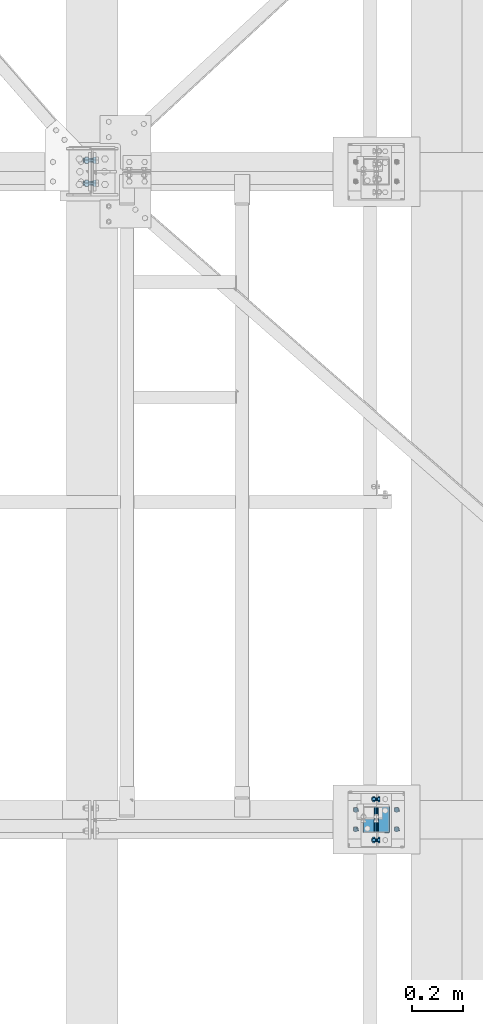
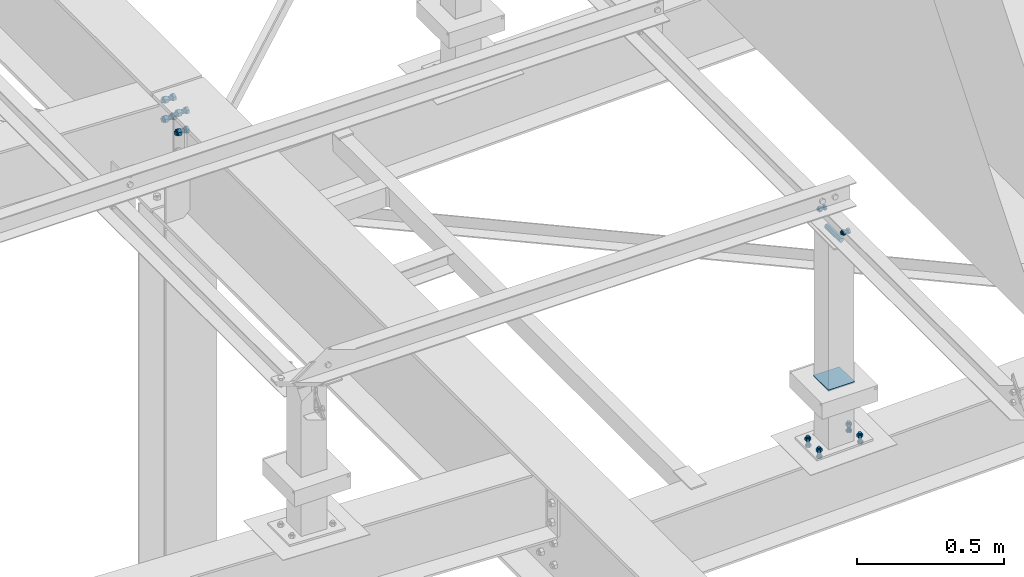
# One storey, part 87 of 3134: 6 mechanical fasteners, 5 elements without a shape of their own.
"""IFC2X3 building model written with IfcOpenShell, lengths in millimetres."""

import ifcopenshell
import ifcopenshell.guid

model = None  # the IFC model being written
_history = None  # IfcOwnerHistory: only IFC2X3 demands one
_inside = {}  # id of a spatial element -> (the spatial element, [elements in it])
_under = {}  # id of a project, library or spatial element -> (it, [spatial elements below it])
_declared = {}  # id of a project -> (the project, [libraries it declares])
_typed = {}  # id of a type object -> (the type object, [elements of that type])
_made_of = {}  # id of a material, layer set ... -> (it, [elements and type objects made of it])


def new_model(schema):
    """Start an empty IFC model of exactly this schema.

    Asked for "IFC4X3", IfcOpenShell would pick the latest addendum, in which some entities
    have other attributes; the version numbers below select the first issue.
    IFC2X3 requires an IfcOwnerHistory on every rooted entity: one is made here for all.
    """
    global model, _history
    if schema == "IFC4X3":
        model = ifcopenshell.file(schema_version=(4, 3, 0, 0))
    else:
        model = ifcopenshell.file(schema=schema)
    _inside.clear()
    _under.clear()
    _declared.clear()
    _typed.clear()
    _made_of.clear()
    _history = None
    if model.schema == "IFC2X3":
        org = make("IfcOrganization", Name="unknown")
        user = make(
            "IfcPersonAndOrganization",
            ThePerson=make("IfcPerson", FamilyName="unknown"),
            TheOrganization=org,
        )
        app = make(
            "IfcApplication",
            ApplicationDeveloper=org,
            Version="unknown",
            ApplicationFullName="unknown",
            ApplicationIdentifier="unknown",
        )
        _history = make(
            "IfcOwnerHistory",
            OwningUser=user,
            OwningApplication=app,
            ChangeAction="ADDED",
            CreationDate=0,
        )
    return model


def make(cls, **values):
    """One entity of the class cls with the attributes given. An attribute that is None is left unset."""
    return model.create_entity(
        cls, **{name: value for name, value in values.items() if value is not None}
    )


def rooted(cls, **values):
    """An entity with a GlobalId (a new one), such as an element, a storey or a relation."""
    return make(cls, GlobalId=ifcopenshell.guid.new(), OwnerHistory=_history, **values)


def si_unit(unit_type, name, prefix=None):
    """IfcSIUnit, for example si_unit("LENGTHUNIT", "METRE", prefix="MILLI")."""
    return make("IfcSIUnit", UnitType=unit_type, Prefix=prefix, Name=name)


def assignment(units):
    """IfcUnitAssignment: the units of a project."""
    return None if units is None else make("IfcUnitAssignment", Units=units)


def point(xyz):
    """IfcCartesianPoint."""
    return None if xyz is None else make("IfcCartesianPoint", Coordinates=xyz)


def direction(xyz):
    """IfcDirection."""
    return None if xyz is None else make("IfcDirection", DirectionRatios=xyz)


def frame(location, z_axis=None, x_axis=None):
    """IfcAxis2Placement3D, a coordinate frame: its origin and axes. An axis left out is left unset."""
    return make(
        "IfcAxis2Placement3D",
        Location=point(location),
        Axis=direction(z_axis),
        RefDirection=direction(x_axis),
    )


def origin_with_axes():
    """The frame at (0, 0, 0) with the z axis (0, 0, 1) and the x axis (1, 0, 0) written out."""
    return frame((0.0, 0.0, 0.0), z_axis=(0.0, 0.0, 1.0), x_axis=(1.0, 0.0, 0.0))


def place(relative_to, where):
    """IfcLocalPlacement: puts the frame where relative to a parent placement (None: the world)."""
    return make(
        "IfcLocalPlacement", PlacementRelTo=relative_to, RelativePlacement=where
    )


def context(
    kind, dimensions, precision=None, world=None, true_north=None, identifier=None
):
    """IfcGeometricRepresentationContext, for example the 3D "Model" context."""
    return make(
        "IfcGeometricRepresentationContext",
        ContextIdentifier=identifier,
        ContextType=kind,
        CoordinateSpaceDimension=dimensions,
        Precision=precision,
        WorldCoordinateSystem=world,
        TrueNorth=true_north,
    )


def subcontext(parent, identifier, kind, view, scale=None):
    """IfcGeometricRepresentationSubContext, for example "Body" below "Model"."""
    return make(
        "IfcGeometricRepresentationSubContext",
        ContextIdentifier=identifier,
        ContextType=kind,
        ParentContext=parent,
        TargetScale=scale,
        TargetView=view,
    )


def project(units=None, contexts=None):
    """IfcProject with its units and contexts."""
    return rooted(
        "IfcProject",
        Name="project",
        RepresentationContexts=contexts,
        UnitsInContext=assignment(units),
    )


def spatial(cls, under=None, at=None, **own):
    """A site, building, storey or space (cls), placed at a placement, below another one or the project."""
    s = rooted(cls, ObjectPlacement=at, **own)
    if under is not None:
        _under.setdefault(under.id(), (under, []))[1].append(s)
    return s


def faces_of(points, faces, orient=None, outer=None):
    """IfcFace entities. A face is a list of loops; a loop is a list of indices into points, from 0.

    orient and outer hold one flag for each loop. By default every Orientation is true, the
    first loop of a face is its IfcFaceOuterBound and the others are IfcFaceBound.
    """
    made = []
    for i, loops in enumerate(faces):
        bounds = []
        for j, loop in enumerate(loops):
            is_outer = j == 0 if outer is None else outer[i][j]
            bounds.append(
                make(
                    "IfcFaceOuterBound" if is_outer else "IfcFaceBound",
                    Bound=make("IfcPolyLoop", Polygon=[points[k] for k in loop]),
                    Orientation=True if orient is None else orient[i][j],
                )
            )
        made.append(make("IfcFace", Bounds=bounds))
    return made


def faceted_brep(points, faces, orient=None, outer=None, voids=None):
    """IfcFacetedBrep: a solid bounded by flat faces; with voids (closed shells), ...WithVoids."""
    shared = [point(p) for p in points]
    hull = make("IfcClosedShell", CfsFaces=faces_of(shared, faces, orient, outer))
    if voids is None:
        return make("IfcFacetedBrep", Outer=hull)
    return make(
        "IfcFacetedBrepWithVoids",
        Outer=hull,
        Voids=[
            make(cls, CfsFaces=faces_of(shared, fs, o, b)) for cls, fs, o, b in voids
        ],
    )


def shape(context_of_items, identifier, shape_type, items):
    """IfcShapeRepresentation: the items that make up one representation, for example the "Body"."""
    return make(
        "IfcShapeRepresentation",
        ContextOfItems=context_of_items,
        RepresentationIdentifier=identifier,
        RepresentationType=shape_type,
        Items=items,
    )


def source(mapping_origin, context_of_items, identifier, shape_type, items):
    """IfcRepresentationMap: a shape defined once, which mapped items show again and again."""
    return make(
        "IfcRepresentationMap",
        MappingOrigin=mapping_origin,
        MappedRepresentation=shape(context_of_items, identifier, shape_type, items),
    )


def transform(
    local_origin,
    x_axis=None,
    y_axis=None,
    z_axis=None,
    scale=None,
    scale2=None,
    scale3=None,
    uniform=True,
):
    """IfcCartesianTransformationOperator3D, or its non-uniform kind. x_axis, y_axis, z_axis: its Axis1, 2, 3."""
    if uniform:
        return make(
            "IfcCartesianTransformationOperator3D",
            Axis1=direction(x_axis),
            Axis2=direction(y_axis),
            LocalOrigin=point(local_origin),
            Scale=scale,
            Axis3=direction(z_axis),
        )
    return make(
        "IfcCartesianTransformationOperator3DnonUniform",
        Axis1=direction(x_axis),
        Axis2=direction(y_axis),
        LocalOrigin=point(local_origin),
        Scale=scale,
        Axis3=direction(z_axis),
        Scale2=scale2,
        Scale3=scale3,
    )


def mapped(mapping_source, mapping_target):
    """IfcMappedItem: shows the shape of a source again, moved by a transform."""
    return make(
        "IfcMappedItem", MappingSource=mapping_source, MappingTarget=mapping_target
    )


def material(Name=None, Category=None):
    """IfcMaterial."""
    return make("IfcMaterial", Name=Name, Category=Category)


def made_of(thing, what):
    """Note that an element or type object is made of a material, layer set ...; save() writes the relation."""
    if what is not None:
        _made_of.setdefault(what.id(), (what, []))[1].append(thing)
    return thing


def type_object(cls, material=None, **own):
    """A type object (cls), such as IfcWallType, which elements share."""
    return made_of(rooted(cls, **own), material)


def element(
    cls,
    number,
    at=None,
    inside=None,
    cuts=None,
    type_object=None,
    material=None,
    context=None,
    identifier="Body",
    shape_type=None,
    held_by="IfcProductDefinitionShape",
    body=None,
    shapes=None,
    **own,
):
    """One element of the class cls, such as IfcWall. Its Tag is "e" and its number.

    at: its placement. inside: the storey or other place that contains it. cuts: it is an
    opening in that element (IfcRelVoidsElement). A single representation is given by context,
    identifier, shape_type and body (its items); several are given by shapes. held_by: the class
    of the entity that holds the representations. save() writes the other relations.
    """
    e = rooted(cls, Tag="e%d" % number, ObjectPlacement=at, **own)
    if body is not None:
        shapes = [shape(context, identifier, shape_type, body)]
    if shapes is not None:
        e.Representation = make(held_by, Representations=shapes)
    if inside is not None:
        _inside.setdefault(inside.id(), (inside, []))[1].append(e)
    if cuts is not None:
        rooted(
            "IfcRelVoidsElement", RelatingBuildingElement=cuts, RelatedOpeningElement=e
        )
    if type_object is not None:
        _typed.setdefault(type_object.id(), (type_object, []))[1].append(e)
    return made_of(e, material)


def aggregate(whole, parts):
    """IfcRelAggregates: a whole, such as a stair, and the parts it consists of."""
    return rooted("IfcRelAggregates", RelatingObject=whole, RelatedObjects=parts)


def save(model, path):
    """Write the relations noted so far, then the file.

    IfcRelAggregates (storeys below a building ...), IfcRelContainedInSpatialStructure (elements
    in a storey), IfcRelDefinesByType, IfcRelAssociatesMaterial and IfcRelDeclares: one each for
    every whole, place, type object, material and project.
    """
    for whole, parts in _under.values():
        aggregate(whole, parts)
    for where, things in _inside.values():
        rooted(
            "IfcRelContainedInSpatialStructure",
            RelatedElements=things,
            RelatingStructure=where,
        )
    for kind, things in _typed.values():
        rooted("IfcRelDefinesByType", RelatedObjects=things, RelatingType=kind)
    for what, things in _made_of.values():
        rooted("IfcRelAssociatesMaterial", RelatedObjects=things, RelatingMaterial=what)
    for by, libraries in _declared.values():
        rooted("IfcRelDeclares", RelatingContext=by, RelatedDefinitions=libraries)
    model.write(path)


model = new_model("IFC2X3")

# Units and contexts
model_context = context("Model", 3, precision=1e-05, world=origin_with_axes())
body_context = subcontext(model_context, "Body", "Model", "MODEL_VIEW")
ifc_project = project(units=[si_unit("LENGTHUNIT", "METRE", prefix="MILLI"), si_unit("AREAUNIT", "SQUARE_METRE"), si_unit("VOLUMEUNIT", "CUBIC_METRE"), si_unit("MASSUNIT", "GRAM", prefix="KILO"), si_unit("TIMEUNIT", "SECOND"), si_unit("PLANEANGLEUNIT", "RADIAN"), si_unit("SOLIDANGLEUNIT", "STERADIAN"), si_unit("THERMODYNAMICTEMPERATUREUNIT", "DEGREE_CELSIUS"), si_unit("LUMINOUSINTENSITYUNIT", "LUMEN")], contexts=[model_context])

# Site, building, storey
site_placement = place(None, origin_with_axes())
site = spatial("IfcSite", under=ifc_project, at=site_placement, CompositionType="ELEMENT")
building_placement = place(site_placement, origin_with_axes())
building = spatial("IfcBuilding", under=site, at=building_placement, Name="Undefined", CompositionType="ELEMENT")
storey_placement = place(building_placement, origin_with_axes())
storey = spatial("IfcBuildingStorey", under=building, at=storey_placement, Name="Undefined", CompositionType="ELEMENT", Elevation=0.0)

# Assembly, mechanical fastener
assembly_1_placement = place(storey_placement, origin_with_axes())
assembly_1 = element("IfcElementAssembly", 1, at=assembly_1_placement, inside=storey, AssemblyPlace="NOTDEFINED", PredefinedType="RIGID_FRAME")
ifc_material_1 = material(Name="8.8")
mechanical_fastener_type = type_object("IfcMechanicalFastenerType", Name="Bolt assembly")
shared_shape_1 = source(origin_with_axes(), body_context, "Body", "Brep", [
    faceted_brep([(10.9696551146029, -14.0, 0.0), (5.48482755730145, -14.0, 9.5), (-5.48482755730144, -14.0, 9.5), (-10.9696551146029, -14.0, 1.34339530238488e-15), (-5.48482755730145, -14.0, -9.5), (5.48482755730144, -14.0, -9.50000000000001), (5.48482755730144, -6.0, -9.50000000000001), (-5.48482755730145, -6.0, -9.5), (-10.9696551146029, -6.0, 1.34339530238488e-15), (-5.48482755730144, -6.0, 9.5), (5.48482755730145, -6.0, 9.5), (10.9696551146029, -6.0, 0.0), (6.0, -6.0, 0.0), (5.19615242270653, -6.0, 3.00000000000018), (2.99999999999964, -6.0, 5.19615242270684), (-6.21801588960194e-13, -6.0, 6.0), (-3.00000000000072, -6.0, 5.19615242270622), (-5.19615242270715, -6.0, 2.9999999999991), (-6.0, -6.0, -1.24360317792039e-12), (-5.19615242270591, -6.0, -3.00000000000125), (-2.99999999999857, -6.0, -5.19615242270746), (1.85874342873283e-12, -6.0, -6.0), (3.00000000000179, -6.0, -5.1961524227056), (5.19615242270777, -6.0, -2.99999999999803), (5.19615242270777, 19.0, -2.99999999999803), (3.00000000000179, 19.0, -5.1961524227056), (1.85874342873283e-12, 19.0, -6.0), (-2.99999999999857, 19.0, -5.19615242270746), (-5.19615242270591, 19.0, -3.00000000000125), (-6.0, 19.0, -1.24360317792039e-12), (-5.19615242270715, 19.0, 2.9999999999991), (-3.00000000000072, 19.0, 5.19615242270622), (-6.21801588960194e-13, 19.0, 6.0), (2.99999999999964, 19.0, 5.19615242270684), (5.19615242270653, 19.0, 3.00000000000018), (6.0, 19.0, 0.0), (10.9696551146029, 4.00000000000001, 0.0), (5.48482755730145, 4.00000000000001, 9.5), (-5.48482755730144, 4.00000000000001, 9.5), (-10.9696551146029, 4.00000000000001, 1.34339530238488e-15), (-5.48482755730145, 4.00000000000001, -9.5), (5.48482755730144, 4.00000000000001, -9.50000000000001), (5.48482755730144, 14.0, -9.50000000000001), (-5.48482755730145, 14.0, -9.5), (-10.9696551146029, 14.0, 1.34339530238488e-15), (-5.48482755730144, 14.0, 9.5), (5.48482755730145, 14.0, 9.5), (10.9696551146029, 14.0, 0.0)], [[[0, 1, 2, 3, 4, 5]], [[6, 7, 8, 9, 10, 11]], [[0, 11, 10, 1]], [[1, 10, 9, 2]], [[2, 9, 8, 3]], [[3, 8, 7, 4]], [[4, 7, 6, 5]], [[5, 6, 11, 0]], [[12, 13, 14, 15, 16, 17, 18, 19, 20, 21, 22, 23]], [[24, 25, 26, 27, 28, 29, 30, 31, 32, 33, 34, 35]], [[12, 35, 34, 13]], [[13, 34, 33, 14]], [[14, 33, 32, 15]], [[15, 32, 31, 16]], [[16, 31, 30, 17]], [[17, 30, 29, 18]], [[18, 29, 28, 19]], [[19, 28, 27, 20]], [[20, 27, 26, 21]], [[21, 26, 25, 22]], [[22, 25, 24, 23]], [[23, 24, 35, 12]], [[36, 37, 38, 39, 40, 41]], [[42, 43, 44, 45, 46, 47]], [[36, 47, 46, 37]], [[37, 46, 45, 38]], [[38, 45, 44, 39]], [[39, 44, 43, 40]], [[40, 43, 42, 41]], [[41, 42, 47, 36]]]),
    faceted_brep([(7.0, -0.1, 0.0), (6.06217782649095, -0.1, 3.50000000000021), (3.49999999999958, -0.1, 6.06217782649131), (-7.25435187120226e-13, -0.1, 7.0), (-3.50000000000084, -0.1, 6.06217782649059), (-6.06217782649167, -0.1, 3.49999999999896), (-7.0, -0.1, -1.45087037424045e-12), (-6.06217782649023, -0.1, -3.50000000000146), (-3.49999999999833, -0.1, -6.06217782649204), (2.1685340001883e-12, -0.1, -7.0), (3.50000000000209, -0.1, -6.06217782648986), (6.0621778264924, -0.1, -3.4999999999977), (6.0621778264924, 4.00000000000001, -3.4999999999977), (3.50000000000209, 4.00000000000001, -6.06217782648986), (2.1685340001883e-12, 4.00000000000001, -7.0), (-3.49999999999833, 4.00000000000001, -6.06217782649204), (-6.06217782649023, 4.00000000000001, -3.50000000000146), (-7.0, 4.00000000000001, -1.45087037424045e-12), (-6.06217782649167, 4.00000000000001, 3.49999999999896), (-3.50000000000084, 4.00000000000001, 6.06217782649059), (-7.25435187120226e-13, 4.00000000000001, 7.0), (3.49999999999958, 4.00000000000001, 6.06217782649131), (6.06217782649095, 4.00000000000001, 3.50000000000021), (7.0, 4.00000000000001, 0.0), (7.0, -5.9, 0.0), (6.06217782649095, -5.9, 3.50000000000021), (3.49999999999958, -5.9, 6.06217782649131), (-7.25435187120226e-13, -5.9, 7.0), (-3.50000000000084, -5.9, 6.06217782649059), (-6.06217782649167, -5.9, 3.49999999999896), (-7.0, -5.9, -1.45087037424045e-12), (-6.06217782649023, -5.9, -3.50000000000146), (-3.49999999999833, -5.9, -6.06217782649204), (2.1685340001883e-12, -5.9, -7.0), (3.50000000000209, -5.9, -6.06217782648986), (6.0621778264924, -5.9, -3.4999999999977), (6.0621778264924, 0.0999999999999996, -3.4999999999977), (3.50000000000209, 0.0999999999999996, -6.06217782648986), (2.1685340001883e-12, 0.0999999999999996, -7.0), (-3.49999999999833, 0.0999999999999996, -6.06217782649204), (-6.06217782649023, 0.0999999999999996, -3.50000000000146), (-7.0, 0.0999999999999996, -1.45087037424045e-12), (-6.06217782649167, 0.0999999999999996, 3.49999999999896), (-3.50000000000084, 0.0999999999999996, 6.06217782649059), (-7.25435187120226e-13, 0.0999999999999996, 7.0), (3.49999999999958, 0.0999999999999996, 6.06217782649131), (6.06217782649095, 0.0999999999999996, 3.50000000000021), (7.0, 0.0999999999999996, 0.0)], [[[0, 1, 2, 3, 4, 5, 6, 7, 8, 9, 10, 11]], [[12, 13, 14, 15, 16, 17, 18, 19, 20, 21, 22, 23]], [[0, 23, 22, 1]], [[1, 22, 21, 2]], [[2, 21, 20, 3]], [[3, 20, 19, 4]], [[4, 19, 18, 5]], [[5, 18, 17, 6]], [[6, 17, 16, 7]], [[7, 16, 15, 8]], [[8, 15, 14, 9]], [[9, 14, 13, 10]], [[10, 13, 12, 11]], [[11, 12, 23, 0]], [[24, 25, 26, 27, 28, 29, 30, 31, 32, 33, 34, 35]], [[36, 37, 38, 39, 40, 41, 42, 43, 44, 45, 46, 47]], [[24, 47, 46, 25]], [[25, 46, 45, 26]], [[26, 45, 44, 27]], [[27, 44, 43, 28]], [[28, 43, 42, 29]], [[29, 42, 41, 30]], [[30, 41, 40, 31]], [[31, 40, 39, 32]], [[32, 39, 38, 33]], [[33, 38, 37, 34]], [[34, 37, 36, 35]], [[35, 36, 47, 24]]]),
])
mechanical_fastener_1_placement = place(assembly_1_placement, frame((10405.0, 26963.75, 4300.0), z_axis=(0.0, 0.0, 1.0), x_axis=(0.0, 1.0, 0.0)))
mechanical_fastener_1 = element("IfcMechanicalFastener", 2, at=mechanical_fastener_1_placement, type_object=mechanical_fastener_type, material=ifc_material_1, Name="Bolt assembly", NominalDiameter=12.0, NominalLength=25.0, context=body_context, shape_type="MappedRepresentation", body=[
    mapped(shared_shape_1, transform((0.0, 0.0, 0.0))),
    mapped(shared_shape_1, transform((160.0, 0.0, 0.0))),
])
aggregate(assembly_1, [mechanical_fastener_1])

assembly_2_placement = place(storey_placement, origin_with_axes())
assembly_2 = element("IfcElementAssembly", 3, at=assembly_2_placement, inside=storey, Name="IPE500", AssemblyPlace="NOTDEFINED", PredefinedType="RIGID_FRAME")
shared_shape_2 = source(origin_with_axes(), body_context, "Body", "Brep", [
    faceted_brep([(13.856406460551, 0.0, 0.0), (6.92820323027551, 0.0, 12.0), (-6.92820323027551, 0.0, 12.0), (-13.856406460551, 0.0, 1.69692038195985e-15), (-6.92820323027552, 0.0, -12.0), (6.9282032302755, 0.0, -12.0), (6.9282032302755, 9.99999995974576, -12.0), (-6.92820323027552, 9.99999995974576, -12.0), (-13.856406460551, 9.99999995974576, 1.69692038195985e-15), (-6.92820323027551, 9.99999995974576, 12.0), (6.92820323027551, 9.99999995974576, 12.0), (13.856406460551, 9.99999995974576, 0.0), (8.0, 9.99999995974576, 0.0), (6.92820323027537, 9.99999995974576, 4.00000000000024), (3.99999999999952, 9.99999995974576, 6.92820323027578), (-8.29068785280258e-13, 9.99999995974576, 8.0), (-4.00000000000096, 9.99999995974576, 6.92820323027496), (-6.9282032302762, 9.99999995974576, 3.99999999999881), (-8.0, 9.99999995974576, -1.65813757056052e-12), (-6.92820323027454, 9.99999995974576, -4.00000000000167), (-3.99999999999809, 9.99999995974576, -6.92820323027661), (2.47832457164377e-12, 9.99999995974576, -8.0), (4.00000000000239, 9.99999995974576, -6.92820323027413), (6.92820323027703, 9.99999995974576, -3.99999999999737), (6.92820323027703, 49.9999999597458, -3.99999999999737), (4.00000000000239, 49.9999999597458, -6.92820323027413), (2.47832457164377e-12, 49.9999999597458, -8.0), (-3.99999999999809, 49.9999999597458, -6.92820323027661), (-6.92820323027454, 49.9999999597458, -4.00000000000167), (-8.0, 49.9999999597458, -1.65813757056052e-12), (-6.9282032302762, 49.9999999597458, 3.99999999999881), (-4.00000000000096, 49.9999999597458, 6.92820323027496), (-8.29068785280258e-13, 49.9999999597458, 8.0), (3.99999999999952, 49.9999999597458, 6.92820323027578), (6.92820323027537, 49.9999999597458, 4.00000000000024), (8.0, 49.9999999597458, 0.0), (13.856406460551, 30.1999997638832, 0.0), (6.92820323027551, 30.1999997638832, 12.0), (-6.92820323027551, 30.1999997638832, 12.0), (-13.856406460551, 30.1999997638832, 1.69692038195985e-15), (-6.92820323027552, 30.1999997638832, -12.0), (6.9282032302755, 30.1999997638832, -12.0), (6.9282032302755, 43.1999997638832, -12.0), (-6.92820323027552, 43.1999997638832, -12.0), (-13.856406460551, 43.1999997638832, 1.69692038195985e-15), (-6.92820323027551, 43.1999997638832, 12.0), (6.92820323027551, 43.1999997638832, 12.0), (13.856406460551, 43.1999997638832, 0.0)], [[[0, 1, 2, 3, 4, 5]], [[6, 7, 8, 9, 10, 11]], [[0, 11, 10, 1]], [[1, 10, 9, 2]], [[2, 9, 8, 3]], [[3, 8, 7, 4]], [[4, 7, 6, 5]], [[5, 6, 11, 0]], [[12, 13, 14, 15, 16, 17, 18, 19, 20, 21, 22, 23]], [[24, 25, 26, 27, 28, 29, 30, 31, 32, 33, 34, 35]], [[12, 35, 34, 13]], [[13, 34, 33, 14]], [[14, 33, 32, 15]], [[15, 32, 31, 16]], [[16, 31, 30, 17]], [[17, 30, 29, 18]], [[18, 29, 28, 19]], [[19, 28, 27, 20]], [[20, 27, 26, 21]], [[21, 26, 25, 22]], [[22, 25, 24, 23]], [[23, 24, 35, 12]], [[36, 37, 38, 39, 40, 41]], [[42, 43, 44, 45, 46, 47]], [[36, 47, 46, 37]], [[37, 46, 45, 38]], [[38, 45, 44, 39]], [[39, 44, 43, 40]], [[40, 43, 42, 41]], [[41, 42, 47, 36]]]),
    faceted_brep([(9.0, 20.0999997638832, 0.0), (7.79422863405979, 20.0999997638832, 4.50000000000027), (4.49999999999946, 20.0999997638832, 7.79422863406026), (-9.3270238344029e-13, 20.0999997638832, 9.0), (-4.50000000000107, 20.0999997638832, 7.79422863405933), (-7.79422863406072, 20.0999997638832, 4.49999999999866), (-9.0, 20.0999997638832, -1.86540476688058e-12), (-7.79422863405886, 20.0999997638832, -4.50000000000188), (-4.49999999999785, 20.0999997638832, -7.79422863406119), (2.78811514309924e-12, 20.0999997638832, -9.0), (4.50000000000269, 20.0999997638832, -7.7942286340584), (7.79422863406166, 20.0999997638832, -4.49999999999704), (7.79422863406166, 30.1999997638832, -4.49999999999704), (4.50000000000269, 30.1999997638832, -7.7942286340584), (2.78811514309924e-12, 30.1999997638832, -9.0), (-4.49999999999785, 30.1999997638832, -7.79422863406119), (-7.79422863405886, 30.1999997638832, -4.50000000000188), (-9.0, 30.1999997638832, -1.86540476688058e-12), (-7.79422863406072, 30.1999997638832, 4.49999999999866), (-4.50000000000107, 30.1999997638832, 7.79422863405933), (-9.3270238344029e-13, 30.1999997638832, 9.0), (4.49999999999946, 30.1999997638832, 7.79422863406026), (7.79422863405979, 30.1999997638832, 4.50000000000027), (9.0, 30.1999997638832, 0.0), (9.0, 10.1000023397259, 0.0), (7.79422863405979, 10.1000023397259, 4.50000000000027), (4.49999999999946, 10.1000023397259, 7.79422863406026), (-9.3270238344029e-13, 10.1000023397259, 9.0), (-4.50000000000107, 10.1000023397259, 7.79422863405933), (-7.79422863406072, 10.1000023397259, 4.49999999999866), (-9.0, 10.1000023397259, -1.86540476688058e-12), (-7.79422863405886, 10.1000023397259, -4.50000000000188), (-4.49999999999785, 10.1000023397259, -7.79422863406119), (2.78811514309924e-12, 10.1000023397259, -9.0), (4.50000000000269, 10.1000023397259, -7.7942286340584), (7.79422863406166, 10.1000023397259, -4.49999999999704), (7.79422863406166, 20.2999997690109, -4.49999999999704), (4.50000000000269, 20.2999997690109, -7.7942286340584), (2.78811514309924e-12, 20.2999997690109, -9.0), (-4.49999999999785, 20.2999997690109, -7.79422863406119), (-7.79422863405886, 20.2999997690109, -4.50000000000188), (-9.0, 20.2999997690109, -1.86540476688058e-12), (-7.79422863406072, 20.2999997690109, 4.49999999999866), (-4.50000000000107, 20.2999997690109, 7.79422863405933), (-9.3270238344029e-13, 20.2999997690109, 9.0), (4.49999999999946, 20.2999997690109, 7.79422863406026), (7.79422863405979, 20.2999997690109, 4.50000000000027), (9.0, 20.2999997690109, 0.0)], [[[0, 1, 2, 3, 4, 5, 6, 7, 8, 9, 10, 11]], [[12, 13, 14, 15, 16, 17, 18, 19, 20, 21, 22, 23]], [[0, 23, 22, 1]], [[1, 22, 21, 2]], [[2, 21, 20, 3]], [[3, 20, 19, 4]], [[4, 19, 18, 5]], [[5, 18, 17, 6]], [[6, 17, 16, 7]], [[7, 16, 15, 8]], [[8, 15, 14, 9]], [[9, 14, 13, 10]], [[10, 13, 12, 11]], [[11, 12, 23, 0]], [[24, 25, 26, 27, 28, 29, 30, 31, 32, 33, 34, 35]], [[36, 37, 38, 39, 40, 41, 42, 43, 44, 45, 46, 47]], [[24, 47, 46, 25]], [[25, 46, 45, 26]], [[26, 45, 44, 27]], [[27, 44, 43, 28]], [[28, 43, 42, 29]], [[29, 42, 41, 30]], [[30, 41, 40, 31]], [[31, 40, 39, 32]], [[32, 39, 38, 33]], [[33, 38, 37, 34]], [[34, 37, 36, 35]], [[35, 36, 47, 24]]]),
])
mechanical_fastener_2_placement = place(assembly_2_placement, frame((9310.09999986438, 29530.0, 3631.67000001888), z_axis=(0.0, 1.0, 0.0), x_axis=(0.0, 0.0, -1.0)))
mechanical_fastener_2 = element("IfcMechanicalFastener", 4, at=mechanical_fastener_2_placement, type_object=mechanical_fastener_type, material=ifc_material_1, Name="Bolt assembly", NominalDiameter=16.0, NominalLength=40.0, context=body_context, shape_type="MappedRepresentation", body=[
    mapped(shared_shape_2, transform((0.0, 0.0, 0.0))),
    mapped(shared_shape_2, transform((80.0, 0.0, 0.0))),
])
aggregate(assembly_2, [mechanical_fastener_2])

assembly_3_placement = place(storey_placement, origin_with_axes())
assembly_3 = element("IfcElementAssembly", 5, at=assembly_3_placement, inside=storey, Name="IPE500", AssemblyPlace="NOTDEFINED", PredefinedType="RIGID_FRAME")
mechanical_fastener_3_placement = place(assembly_3_placement, frame((9310.09999986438, 29620.0, 3631.67000001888), z_axis=(0.0, 1.0, 0.0), x_axis=(0.0, 0.0, -1.0)))
mechanical_fastener_3 = element("IfcMechanicalFastener", 6, at=mechanical_fastener_3_placement, type_object=mechanical_fastener_type, material=ifc_material_1, Name="Bolt assembly", NominalDiameter=16.0, NominalLength=40.0, context=body_context, shape_type="MappedRepresentation", body=[
    mapped(shared_shape_2, transform((0.0, 0.0, 0.0))),
    mapped(shared_shape_2, transform((80.0, 0.0, 0.0))),
])
aggregate(assembly_3, [mechanical_fastener_3])

assembly_4_placement = place(storey_placement, origin_with_axes())
assembly_4 = element("IfcElementAssembly", 7, at=assembly_4_placement, inside=storey, Name="300", AssemblyPlace="NOTDEFINED", PredefinedType="RIGID_FRAME")
shared_shape_3 = source(origin_with_axes(), body_context, "Body", "Brep", [
    faceted_brep([(10.9696551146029, -4.1984682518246, 0.0), (5.48482755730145, -4.1984682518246, 9.5), (-5.48482755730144, -4.1984682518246, 9.5), (-10.9696551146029, -4.1984682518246, 1.34339530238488e-15), (-5.48482755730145, -4.1984682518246, -9.5), (5.48482755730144, -4.1984682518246, -9.50000000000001), (5.48482755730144, 3.8015317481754, -9.50000000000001), (-5.48482755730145, 3.8015317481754, -9.5), (-10.9696551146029, 3.8015317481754, 1.34339530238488e-15), (-5.48482755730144, 3.8015317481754, 9.5), (5.48482755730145, 3.8015317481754, 9.5), (10.9696551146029, 3.8015317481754, 0.0), (6.0, 3.8015317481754, 0.0), (5.19615242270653, 3.8015317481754, 3.00000000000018), (2.99999999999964, 3.8015317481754, 5.19615242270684), (-6.21801588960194e-13, 3.8015317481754, 6.0), (-3.00000000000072, 3.8015317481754, 5.19615242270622), (-5.19615242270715, 3.8015317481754, 2.9999999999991), (-6.0, 3.8015317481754, -1.24360317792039e-12), (-5.19615242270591, 3.8015317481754, -3.00000000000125), (-2.99999999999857, 3.8015317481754, -5.19615242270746), (1.85874342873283e-12, 3.8015317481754, -6.0), (3.00000000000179, 3.8015317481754, -5.1961524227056), (5.19615242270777, 3.8015317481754, -2.99999999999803), (5.19615242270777, 38.8015317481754, -2.99999999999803), (3.00000000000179, 38.8015317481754, -5.1961524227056), (1.85874342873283e-12, 38.8015317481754, -6.0), (-2.99999999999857, 38.8015317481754, -5.19615242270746), (-5.19615242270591, 38.8015317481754, -3.00000000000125), (-6.0, 38.8015317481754, -1.24360317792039e-12), (-5.19615242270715, 38.8015317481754, 2.9999999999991), (-3.00000000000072, 38.8015317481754, 5.19615242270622), (-6.21801588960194e-13, 38.8015317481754, 6.0), (2.99999999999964, 38.8015317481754, 5.19615242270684), (5.19615242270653, 38.8015317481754, 3.00000000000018), (6.0, 38.8015317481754, 0.0), (10.9696551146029, 23.0039050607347, 0.0), (5.48482755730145, 23.0039050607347, 9.5), (-5.48482755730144, 23.0039050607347, 9.5), (-10.9696551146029, 23.0039050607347, 1.34339530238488e-15), (-5.48482755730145, 23.0039050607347, -9.5), (5.48482755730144, 23.0039050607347, -9.50000000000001), (5.48482755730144, 33.0039050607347, -9.50000000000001), (-5.48482755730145, 33.0039050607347, -9.5), (-10.9696551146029, 33.0039050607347, 1.34339530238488e-15), (-5.48482755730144, 33.0039050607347, 9.5), (5.48482755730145, 33.0039050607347, 9.5), (10.9696551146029, 33.0039050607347, 0.0)], [[[0, 1, 2, 3, 4, 5]], [[6, 7, 8, 9, 10, 11]], [[0, 11, 10, 1]], [[1, 10, 9, 2]], [[2, 9, 8, 3]], [[3, 8, 7, 4]], [[4, 7, 6, 5]], [[5, 6, 11, 0]], [[12, 13, 14, 15, 16, 17, 18, 19, 20, 21, 22, 23]], [[24, 25, 26, 27, 28, 29, 30, 31, 32, 33, 34, 35]], [[12, 35, 34, 13]], [[13, 34, 33, 14]], [[14, 33, 32, 15]], [[15, 32, 31, 16]], [[16, 31, 30, 17]], [[17, 30, 29, 18]], [[18, 29, 28, 19]], [[19, 28, 27, 20]], [[20, 27, 26, 21]], [[21, 26, 25, 22]], [[22, 25, 24, 23]], [[23, 24, 35, 12]], [[36, 37, 38, 39, 40, 41]], [[42, 43, 44, 45, 46, 47]], [[36, 47, 46, 37]], [[37, 46, 45, 38]], [[38, 45, 44, 39]], [[39, 44, 43, 40]], [[40, 43, 42, 41]], [[41, 42, 47, 36]]]),
    faceted_brep([(7.0, 14.9039050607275, 0.0), (6.06217782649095, 14.9039050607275, 3.50000000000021), (3.49999999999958, 14.9039050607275, 6.06217782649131), (-7.25435187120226e-13, 14.9039050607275, 7.0), (-3.50000000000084, 14.9039050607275, 6.06217782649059), (-6.06217782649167, 14.9039050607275, 3.49999999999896), (-7.0, 14.9039050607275, -1.45087037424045e-12), (-6.06217782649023, 14.9039050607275, -3.50000000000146), (-3.49999999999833, 14.9039050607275, -6.06217782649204), (2.1685340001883e-12, 14.9039050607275, -7.0), (3.50000000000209, 14.9039050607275, -6.06217782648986), (6.0621778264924, 14.9039050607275, -3.4999999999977), (6.0621778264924, 23.0039050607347, -3.4999999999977), (3.50000000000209, 23.0039050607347, -6.06217782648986), (2.1685340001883e-12, 23.0039050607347, -7.0), (-3.49999999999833, 23.0039050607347, -6.06217782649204), (-6.06217782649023, 23.0039050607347, -3.50000000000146), (-7.0, 23.0039050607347, -1.45087037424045e-12), (-6.06217782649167, 23.0039050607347, 3.49999999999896), (-3.50000000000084, 23.0039050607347, 6.06217782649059), (-7.25435187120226e-13, 23.0039050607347, 7.0), (3.49999999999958, 23.0039050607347, 6.06217782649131), (6.06217782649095, 23.0039050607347, 3.50000000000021), (7.0, 23.0039050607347, 0.0), (7.0, 3.9015317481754, 0.0), (6.06217782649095, 3.9015317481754, 3.50000000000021), (3.49999999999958, 3.9015317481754, 6.06217782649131), (-7.25435187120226e-13, 3.9015317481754, 7.0), (-3.50000000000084, 3.9015317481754, 6.06217782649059), (-6.06217782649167, 3.9015317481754, 3.49999999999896), (-7.0, 3.9015317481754, -1.45087037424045e-12), (-6.06217782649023, 3.9015317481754, -3.50000000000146), (-3.49999999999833, 3.9015317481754, -6.06217782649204), (2.1685340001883e-12, 3.9015317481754, -7.0), (3.50000000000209, 3.9015317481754, -6.06217782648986), (6.0621778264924, 3.9015317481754, -3.4999999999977), (6.0621778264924, 13.1015315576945, -3.4999999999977), (3.50000000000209, 13.1015315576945, -6.06217782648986), (2.1685340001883e-12, 13.1015315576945, -7.0), (-3.49999999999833, 13.1015315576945, -6.06217782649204), (-6.06217782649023, 13.1015315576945, -3.50000000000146), (-7.0, 13.1015315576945, -1.45087037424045e-12), (-6.06217782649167, 13.1015315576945, 3.49999999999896), (-3.50000000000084, 13.1015315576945, 6.06217782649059), (-7.25435187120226e-13, 13.1015315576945, 7.0), (3.49999999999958, 13.1015315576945, 6.06217782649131), (6.06217782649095, 13.1015315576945, 3.50000000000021), (7.0, 13.1015315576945, 0.0)], [[[0, 1, 2, 3, 4, 5, 6, 7, 8, 9, 10, 11]], [[12, 13, 14, 15, 16, 17, 18, 19, 20, 21, 22, 23]], [[0, 23, 22, 1]], [[1, 22, 21, 2]], [[2, 21, 20, 3]], [[3, 20, 19, 4]], [[4, 19, 18, 5]], [[5, 18, 17, 6]], [[6, 17, 16, 7]], [[7, 16, 15, 8]], [[8, 15, 14, 9]], [[9, 14, 13, 10]], [[10, 13, 12, 11]], [[11, 12, 23, 0]], [[24, 25, 26, 27, 28, 29, 30, 31, 32, 33, 34, 35]], [[36, 37, 38, 39, 40, 41, 42, 43, 44, 45, 46, 47]], [[24, 47, 46, 25]], [[25, 46, 45, 26]], [[26, 45, 44, 27]], [[27, 44, 43, 28]], [[28, 43, 42, 29]], [[29, 42, 41, 30]], [[30, 41, 40, 31]], [[31, 40, 39, 32]], [[32, 39, 38, 33]], [[33, 38, 37, 34]], [[34, 37, 36, 35]], [[35, 36, 47, 24]]]),
])
mechanical_fastener_4_placement = place(assembly_4_placement, frame((10405.7748812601, 27005.75, 3374.2272055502), z_axis=(0.999519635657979, 0.0, 0.0309919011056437), x_axis=(0.0, 1.0, 0.0)))
mechanical_fastener_4 = element("IfcMechanicalFastener", 8, at=mechanical_fastener_4_placement, type_object=mechanical_fastener_type, material=ifc_material_1, Name="Bolt assembly", NominalDiameter=12.0, NominalLength=35.0, context=body_context, shape_type="MappedRepresentation", body=[
    mapped(shared_shape_3, transform((0.0, -5.32963895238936e-10, -79.9999999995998))),
    mapped(shared_shape_3, transform((76.0, -5.32963895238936e-10, -79.9999999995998))),
    mapped(shared_shape_3, transform((0.0, 5.3114490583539e-10, 79.9999999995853))),
    mapped(shared_shape_3, transform((76.0, 5.3114490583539e-10, 79.9999999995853))),
])
aggregate(assembly_4, [mechanical_fastener_4])

# Assembly, mechanical fasteners
assembly_5_placement = place(storey_placement, origin_with_axes())
assembly_5 = element("IfcElementAssembly", 9, at=assembly_5_placement, inside=storey, AssemblyPlace="NOTDEFINED", PredefinedType="RIGID_FRAME")
shared_shape_4 = source(origin_with_axes(), body_context, "Body", "Brep", [
    faceted_brep([(9.0, -50.0, 0.0), (7.79422863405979, -50.0, 4.50000000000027), (4.49999999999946, -50.0, 7.79422863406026), (-9.3270238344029e-13, -50.0, 9.0), (-4.50000000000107, -50.0, 7.79422863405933), (-7.79422863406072, -50.0, 4.49999999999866), (-9.0, -50.0, -1.86540476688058e-12), (-7.79422863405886, -50.0, -4.50000000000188), (-4.49999999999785, -50.0, -7.79422863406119), (2.78811514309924e-12, -50.0, -9.0), (4.50000000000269, -50.0, -7.7942286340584), (7.79422863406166, -50.0, -4.49999999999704), (7.79422863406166, 50.1, -4.49999999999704), (4.50000000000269, 50.1, -7.7942286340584), (2.78811514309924e-12, 50.1, -9.0), (-4.49999999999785, 50.1, -7.79422863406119), (-7.79422863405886, 50.1, -4.50000000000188), (-9.0, 50.1, -1.86540476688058e-12), (-7.79422863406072, 50.1, 4.49999999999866), (-4.50000000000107, 50.1, 7.79422863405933), (-9.3270238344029e-13, 50.1, 9.0), (4.49999999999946, 50.1, 7.79422863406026), (7.79422863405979, 50.1, 4.50000000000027), (9.0, 50.1, 0.0)], [[[0, 1, 2, 3, 4, 5, 6, 7, 8, 9, 10, 11]], [[12, 13, 14, 15, 16, 17, 18, 19, 20, 21, 22, 23]], [[0, 23, 22, 1]], [[1, 22, 21, 2]], [[2, 21, 20, 3]], [[3, 20, 19, 4]], [[4, 19, 18, 5]], [[5, 18, 17, 6]], [[6, 17, 16, 7]], [[7, 16, 15, 8]], [[8, 15, 14, 9]], [[9, 14, 13, 10]], [[10, 13, 12, 11]], [[11, 12, 23, 0]]]),
])
mechanical_fastener_5_placement = place(assembly_5_placement, frame((10405.0, 27043.75, 4245.0), z_axis=(-1.0, 0.0, 0.0), x_axis=(0.0, 0.0, 1.0)))
mechanical_fastener_5 = element("IfcMechanicalFastener", 10, at=mechanical_fastener_5_placement, type_object=mechanical_fastener_type, material=ifc_material_1, Name="Bolt assembly", NominalDiameter=16.0, NominalLength=100.0, context=body_context, shape_type="MappedRepresentation", body=[
    mapped(shared_shape_4, transform((0.0, 0.0, 0.0))),
])
ifc_material_2 = material(Name="6.8")
shared_shape_5 = source(origin_with_axes(), body_context, "Body", "Brep", [
    faceted_brep([(51.5, 1.36424205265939e-12, 50.0), (51.3858192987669, 1.36424205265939e-12, 50.5740251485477), (51.0606601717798, 1.36424205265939e-12, 51.0606601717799), (50.5740251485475, 1.36424205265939e-12, 51.385819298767), (-50.0000000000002, 1.36424205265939e-12, 51.5), (-50.7500000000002, 1.36424205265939e-12, 51.2990381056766), (-51.2990381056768, 1.36424205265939e-12, 50.7499999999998), (-51.5, 1.36424205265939e-12, 49.9999999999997), (-51.5, 1.36424205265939e-12, -50.0000000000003), (-51.2990381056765, 1.36424205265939e-12, -50.7500000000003), (-50.7499999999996, 1.36424205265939e-12, -51.2990381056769), (-49.9999999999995, 1.36424205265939e-12, -51.5), (50.0000000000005, 1.36424205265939e-12, -51.5), (50.7500000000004, 1.36424205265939e-12, -51.2990381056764), (51.2990381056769, 1.36424205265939e-12, -50.7499999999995), (51.5, 1.36424205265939e-12, -49.9999999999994), (51.5, 5.10000000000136, -49.9999999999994), (51.2990381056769, 5.10000000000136, -50.7499999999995), (50.7500000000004, 5.10000000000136, -51.2990381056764), (50.0000000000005, 5.10000000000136, -51.5), (-49.9999999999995, 5.10000000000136, -51.5), (-50.7499999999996, 5.10000000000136, -51.2990381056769), (-51.2990381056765, 5.10000000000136, -50.7500000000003), (-51.5, 5.10000000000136, -50.0000000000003), (-51.5, 5.10000000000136, 49.9999999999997), (-51.2990381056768, 5.10000000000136, 50.7499999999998), (-50.7500000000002, 5.10000000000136, 51.2990381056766), (-50.0000000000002, 5.10000000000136, 51.5), (50.5740251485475, 5.10000000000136, 51.385819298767), (51.0606601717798, 5.10000000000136, 51.0606601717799), (51.3858192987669, 5.10000000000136, 50.5740251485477), (51.5, 5.10000000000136, 50.0)], [[[0, 1, 2, 3, 4, 5, 6, 7, 8, 9, 10, 11, 12, 13, 14, 15]], [[16, 17, 18, 19, 20, 21, 22, 23, 24, 25, 26, 27, 28, 29, 30, 31]], [[0, 31, 30, 1]], [[1, 30, 29, 2]], [[2, 29, 28, 3]], [[3, 28, 27, 4]], [[4, 27, 26, 5]], [[5, 26, 25, 6]], [[6, 25, 24, 7]], [[7, 24, 23, 8]], [[8, 23, 22, 9]], [[9, 22, 21, 10]], [[10, 21, 20, 11]], [[11, 20, 19, 12]], [[12, 19, 18, 13]], [[13, 18, 17, 14]], [[14, 17, 16, 15]], [[15, 16, 31, 0]]]),
])
mechanical_fastener_6_placement = place(assembly_5_placement, frame((10405.0, 27043.75, 3643.81), z_axis=(0.0, -1.0, 0.0), x_axis=(-1.0, 0.0, 0.0)))
mechanical_fastener_6 = element("IfcMechanicalFastener", 11, at=mechanical_fastener_6_placement, type_object=mechanical_fastener_type, material=ifc_material_2, Name="Bolt assembly", NominalDiameter=10.0, NominalLength=5.0, context=body_context, shape_type="MappedRepresentation", body=[
    mapped(shared_shape_5, transform((0.0, 0.0, 0.0))),
])
aggregate(assembly_5, [mechanical_fastener_6, mechanical_fastener_5])

save(model, "model.ifc")
